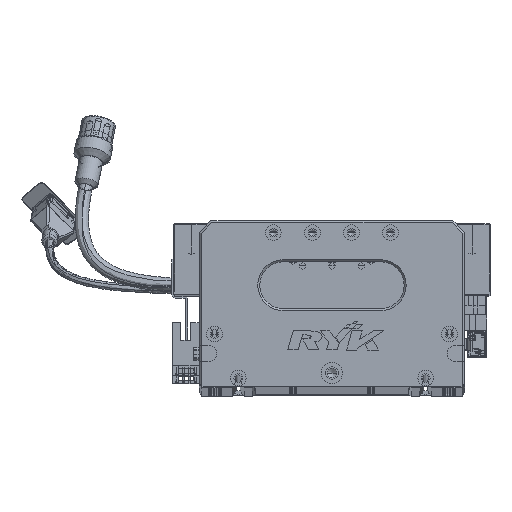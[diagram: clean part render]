
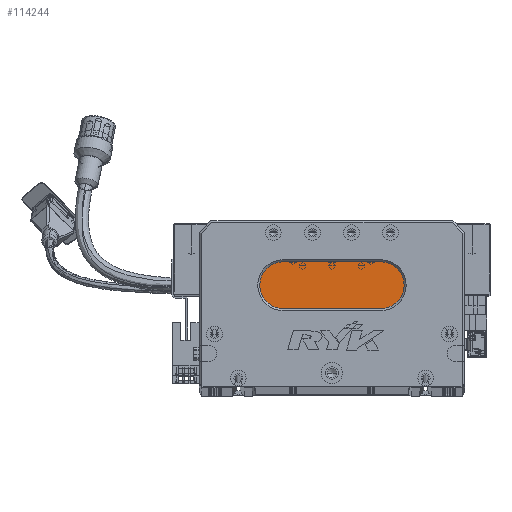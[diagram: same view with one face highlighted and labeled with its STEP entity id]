
A CAD part, top view. The second image highlights one B-rep face of the part: STEP entity #114244.
In plain terms, the highlighted planar face has unit normal (0, 0, 1) as drawn and (0, 0, -1) by its records, which use the part's own axes.
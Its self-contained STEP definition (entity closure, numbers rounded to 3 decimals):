
#1036 = CIRCLE ( 'NONE', #79231, 12. ) ;
#3288 = CARTESIAN_POINT ( 'NONE',  ( 93., 52., 13. ) ) ;
#9060 = CARTESIAN_POINT ( 'NONE',  ( 43., 52., 13. ) ) ;
#9366 = CARTESIAN_POINT ( 'NONE',  ( 43., 40., 13. ) ) ;
#18171 = DIRECTION ( 'NONE',  ( -1., 0., 0. ) ) ;
#19119 = ORIENTED_EDGE ( 'NONE', *, *, #80728, .T. ) ;
#22297 = VERTEX_POINT ( 'NONE', #77240 ) ;
#22989 = AXIS2_PLACEMENT_3D ( 'NONE', #3288, #81332, #102562 ) ;
#23614 = PLANE ( 'NONE',  #53303 ) ;
#25039 = AXIS2_PLACEMENT_3D ( 'NONE', #93294, #94577, #55500 ) ;
#25779 = VECTOR ( 'NONE', #59870, 1000. ) ;
#27891 = DIRECTION ( 'NONE',  ( 0., 0., -1. ) ) ;
#29612 = CARTESIAN_POINT ( 'NONE',  ( 93., 64., 13. ) ) ;
#29644 = VERTEX_POINT ( 'NONE', #49304 ) ;
#30538 = CARTESIAN_POINT ( 'NONE',  ( 93., 64., 13. ) ) ;
#35994 = DIRECTION ( 'NONE',  ( -1., 0., 0. ) ) ;
#39304 = ORIENTED_EDGE ( 'NONE', *, *, #50742, .T. ) ;
#45298 = EDGE_CURVE ( 'NONE', #29644, #22297, #122907, .T. ) ;
#46550 = FACE_OUTER_BOUND ( 'NONE', #85190, .T. ) ;
#49304 = CARTESIAN_POINT ( 'NONE',  ( 31., 52., 13. ) ) ;
#50742 = EDGE_CURVE ( 'NONE', #78498, #88619, #73811, .T. ) ;
#53303 = AXIS2_PLACEMENT_3D ( 'NONE', #62017, #27891, #35994 ) ;
#55500 = DIRECTION ( 'NONE',  ( -1., 0., 0. ) ) ;
#56547 = VERTEX_POINT ( 'NONE', #9366 ) ;
#57092 = ORIENTED_EDGE ( 'NONE', *, *, #104139, .T. ) ;
#58314 = LINE ( 'NONE', #29612, #25779 ) ;
#59870 = DIRECTION ( 'NONE',  ( 1., 0., 0. ) ) ;
#62017 = CARTESIAN_POINT ( 'NONE',  ( 93., 52., 13. ) ) ;
#66124 = ORIENTED_EDGE ( 'NONE', *, *, #80462, .T. ) ;
#66197 = VECTOR ( 'NONE', #90968, 1000. ) ;
#73811 = CIRCLE ( 'NONE', #22989, 12. ) ;
#77240 = CARTESIAN_POINT ( 'NONE',  ( 43., 64., 13. ) ) ;
#78498 = VERTEX_POINT ( 'NONE', #30538 ) ;
#79231 = AXIS2_PLACEMENT_3D ( 'NONE', #9060, #116611, #18171 ) ;
#80462 = EDGE_CURVE ( 'NONE', #56547, #29644, #1036, .T. ) ;
#80728 = EDGE_CURVE ( 'NONE', #88619, #56547, #103441, .T. ) ;
#81332 = DIRECTION ( 'NONE',  ( 0., 0., -1. ) ) ;
#81829 = CARTESIAN_POINT ( 'NONE',  ( 93., 40., 13. ) ) ;
#85190 = EDGE_LOOP ( 'NONE', ( #39304, #19119, #66124, #99447, #57092 ) ) ;
#88619 = VERTEX_POINT ( 'NONE', #93988 ) ;
#90968 = DIRECTION ( 'NONE',  ( -1., 0., 0. ) ) ;
#93294 = CARTESIAN_POINT ( 'NONE',  ( 43., 52., 13. ) ) ;
#93988 = CARTESIAN_POINT ( 'NONE',  ( 93., 40., 13. ) ) ;
#94577 = DIRECTION ( 'NONE',  ( 0., 0., -1. ) ) ;
#99447 = ORIENTED_EDGE ( 'NONE', *, *, #45298, .T. ) ;
#102562 = DIRECTION ( 'NONE',  ( -1., 0., 0. ) ) ;
#103441 = LINE ( 'NONE', #81829, #66197 ) ;
#104139 = EDGE_CURVE ( 'NONE', #22297, #78498, #58314, .T. ) ;
#114244 = ADVANCED_FACE ( 'NONE', ( #46550 ), #23614, .T. ) ;
#116611 = DIRECTION ( 'NONE',  ( 0., 0., -1. ) ) ;
#122907 = CIRCLE ( 'NONE', #25039, 12. ) ;
